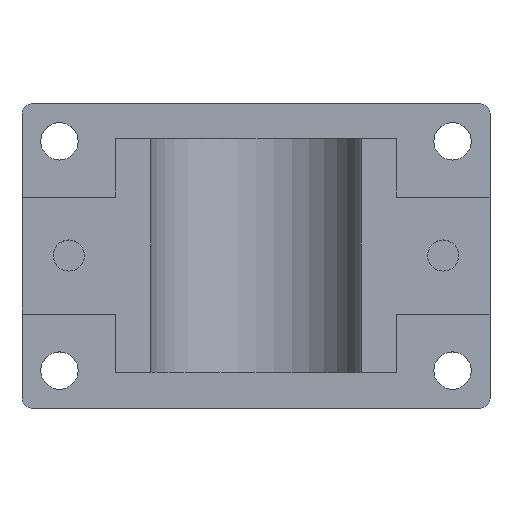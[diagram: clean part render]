
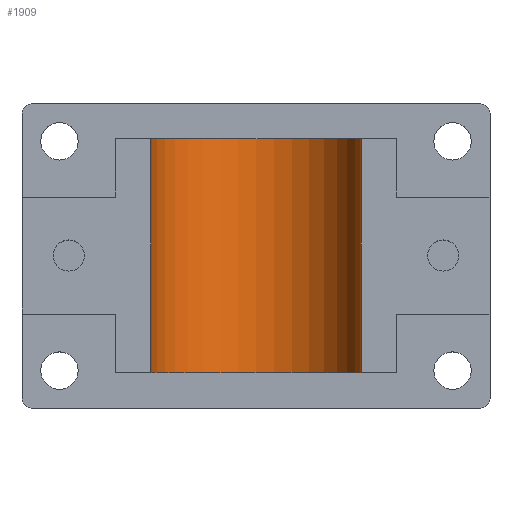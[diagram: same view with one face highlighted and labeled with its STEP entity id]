
A CAD part, top view. The second image highlights one B-rep face of the part: STEP entity #1909.
In plain terms, the highlighted cylindrical face has radius 22.5 mm (diameter 45 mm), a partial arc.
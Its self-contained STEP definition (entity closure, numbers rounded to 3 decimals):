
#906=CIRCLE('',#2035,22.5);
#907=CIRCLE('',#2036,22.5);
#1015=FACE_OUTER_BOUND('',#1078,.T.);
#1078=EDGE_LOOP('',(#1813,#1814,#1815,#1816));
#1170=LINE('',#2772,#1264);
#1176=LINE('',#2789,#1270);
#1264=VECTOR('',#2348,10.);
#1270=VECTOR('',#2368,10.);
#1387=VERTEX_POINT('',#2770);
#1388=VERTEX_POINT('',#2771);
#1391=VERTEX_POINT('',#2787);
#1392=VERTEX_POINT('',#2788);
#1530=EDGE_CURVE('',#1387,#1388,#1170,.T.);
#1538=EDGE_CURVE('',#1391,#1392,#1176,.T.);
#1539=EDGE_CURVE('',#1388,#1391,#906,.T.);
#1540=EDGE_CURVE('',#1392,#1387,#907,.T.);
#1813=ORIENTED_EDGE('',*,*,#1538,.F.);
#1814=ORIENTED_EDGE('',*,*,#1539,.F.);
#1815=ORIENTED_EDGE('',*,*,#1530,.F.);
#1816=ORIENTED_EDGE('',*,*,#1540,.F.);
#1863=CYLINDRICAL_SURFACE('',#2034,22.5);
#1909=ADVANCED_FACE('',(#1015),#1863,.F.);
#2034=AXIS2_PLACEMENT_3D('',#2786,#2366,#2367);
#2035=AXIS2_PLACEMENT_3D('',#2790,#2369,#2370);
#2036=AXIS2_PLACEMENT_3D('',#2791,#2371,#2372);
#2348=DIRECTION('',(0.,-1.,0.));
#2366=DIRECTION('center_axis',(0.,1.,0.));
#2367=DIRECTION('ref_axis',(-1.,0.,0.));
#2368=DIRECTION('',(0.,1.,0.));
#2369=DIRECTION('center_axis',(0.,1.,0.));
#2370=DIRECTION('ref_axis',(-1.,0.,0.));
#2371=DIRECTION('center_axis',(0.,-1.,0.));
#2372=DIRECTION('ref_axis',(-1.,0.,0.));
#2770=CARTESIAN_POINT('',(22.5,25.,60.));
#2771=CARTESIAN_POINT('',(22.5,-25.,60.));
#2772=CARTESIAN_POINT('',(22.5,-25.,60.));
#2786=CARTESIAN_POINT('Origin',(0.,-25.,60.));
#2787=CARTESIAN_POINT('',(-22.5,-25.,60.));
#2788=CARTESIAN_POINT('',(-22.5,25.,60.));
#2789=CARTESIAN_POINT('',(-22.5,-25.,60.));
#2790=CARTESIAN_POINT('Origin',(0.,-25.,60.));
#2791=CARTESIAN_POINT('Origin',(0.,25.,60.));
